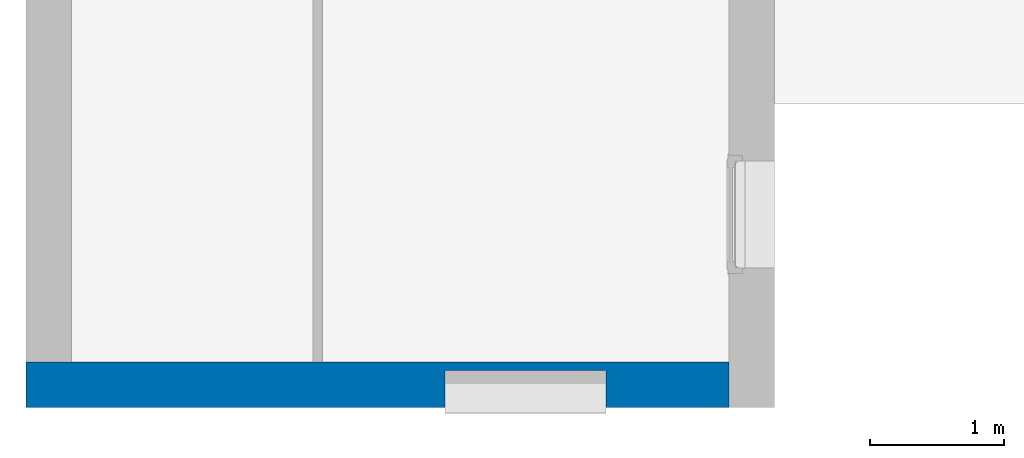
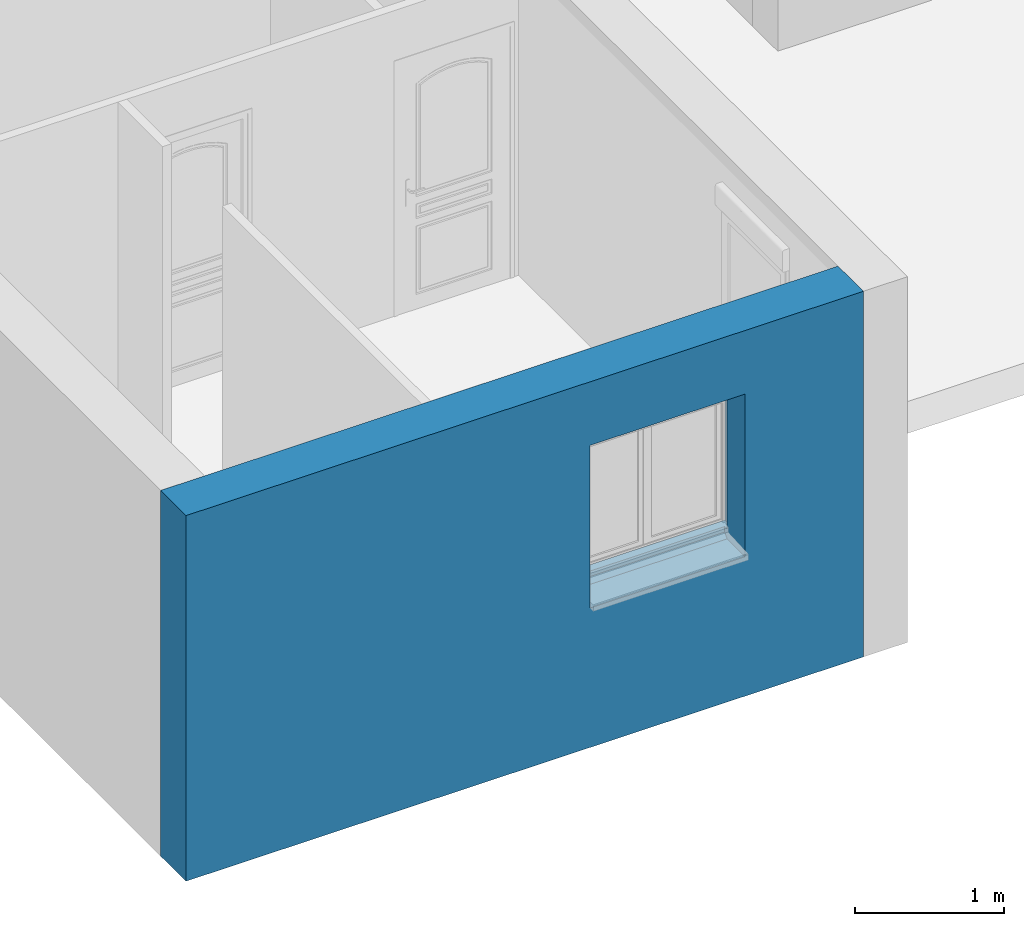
# One storey, part 2 of 23: 1 wall, 1 opening.
"""IFC2X3 building model written with IfcOpenShell, lengths in metres."""

from ifc_helpers import new_model, entity, si_unit, converted_unit, derived_unit, direction, frame, frame_2d, origin, place, context, subcontext, project, spatial, rectangle, extrude, faceted_brep, material, layer, layer_set, layer_usage, type_object, element, save


model = new_model("IFC2X3")

# Units and contexts
model_context = context("Model", 3, precision=1e-05, world=origin(), true_north=direction((6.12303176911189e-17, 1.0)))
body_context = subcontext(model_context, "Body", "Model", "MODEL_VIEW")
ifc_project = project(units=[si_unit("LENGTHUNIT", "METRE"), si_unit("AREAUNIT", "SQUARE_METRE"), si_unit("VOLUMEUNIT", "CUBIC_METRE"), converted_unit("PLANEANGLEUNIT", "DEGREE", entity("IfcRatioMeasure", 0.0174532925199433), si_unit("PLANEANGLEUNIT", "RADIAN"), dimensions=[0, 0, 0, 0, 0, 0, 0]), si_unit("MASSUNIT", "GRAM", prefix="KILO"), derived_unit("MASSDENSITYUNIT", [(si_unit("MASSUNIT", "GRAM", prefix="KILO"), 1), (si_unit("LENGTHUNIT", "METRE"), -3)]), si_unit("TIMEUNIT", "SECOND"), si_unit("FREQUENCYUNIT", "HERTZ"), si_unit("THERMODYNAMICTEMPERATUREUNIT", "DEGREE_CELSIUS"), derived_unit("THERMALTRANSMITTANCEUNIT", [(si_unit("MASSUNIT", "GRAM", prefix="KILO"), 1), (si_unit("THERMODYNAMICTEMPERATUREUNIT", "KELVIN"), -1), (si_unit("TIMEUNIT", "SECOND"), -3)]), derived_unit("VOLUMETRICFLOWRATEUNIT", [(si_unit("LENGTHUNIT", "METRE"), 3), (si_unit("TIMEUNIT", "SECOND"), -1)]), si_unit("ELECTRICCURRENTUNIT", "AMPERE"), si_unit("ELECTRICVOLTAGEUNIT", "VOLT"), si_unit("POWERUNIT", "WATT"), si_unit("FORCEUNIT", "NEWTON", prefix="KILO"), si_unit("ILLUMINANCEUNIT", "LUX"), si_unit("LUMINOUSFLUXUNIT", "LUMEN"), si_unit("LUMINOUSINTENSITYUNIT", "CANDELA"), derived_unit("USERDEFINED", [(si_unit("MASSUNIT", "GRAM", prefix="KILO"), -1), (si_unit("LENGTHUNIT", "METRE"), -2), (si_unit("TIMEUNIT", "SECOND"), 3), (si_unit("LUMINOUSFLUXUNIT", "LUMEN"), 1)]), derived_unit("LINEARVELOCITYUNIT", [(si_unit("LENGTHUNIT", "METRE"), 1), (si_unit("TIMEUNIT", "SECOND"), -1)]), si_unit("PRESSUREUNIT", "PASCAL"), derived_unit("USERDEFINED", [(si_unit("LENGTHUNIT", "METRE"), -2), (si_unit("MASSUNIT", "GRAM", prefix="KILO"), 1), (si_unit("TIMEUNIT", "SECOND"), -2)])], contexts=[model_context])

# Site, building, storey
site_placement = place(None, origin())
site = spatial("IfcSite", under=ifc_project, at=site_placement, Name="Default", CompositionType="ELEMENT")
building_placement = place(site_placement, origin())
building = spatial("IfcBuilding", under=site, at=building_placement, CompositionType="ELEMENT")
storey_placement = place(building_placement, origin())
storey = spatial("IfcBuildingStorey", under=building, at=storey_placement, Name="2 - Rez de Chaussée", CompositionType="ELEMENT", Elevation=-1.94916083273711e-14)

# Wall, opening
ifc_material_1 = material(Name="Maçonnerie - Enduit")
ifc_layer_1 = layer(ifc_material_1, 0.02)
ifc_material_2 = material(Name="Blocs béton manufacturés")
ifc_layer_2 = layer(ifc_material_2, 0.2)
ifc_material_3 = material(Name="TIFE, isolation extérieure")
ifc_layer_3 = layer(ifc_material_3, 0.12)
ifc_layer_set = layer_set([ifc_layer_1, ifc_layer_2, ifc_layer_3], Name="Mur de base:Isolant 10+1 vide 1 Parpaing 20 Enduit 2")
ifc_layer_usage = layer_usage(ifc_layer_set, "AXIS2", "NEGATIVE", 0.17)
wall_type = type_object("IfcWallType", Name="Mur de base:Isolant 10+1 vide 1 Parpaing 20 Enduit 2", PredefinedType="STANDARD", material=ifc_layer_set)
wall_placement = place(storey_placement, frame((-4.69622246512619, -7.28194499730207, -0.32), z_axis=(0.0, 0.0, 1.0), x_axis=(-1.0, 0.0, 0.0)))
wall = element("IfcWallStandardCase", 1, at=wall_placement, inside=storey, type_object=wall_type, material=ifc_layer_usage, Name="Mur de base:Isolant 10+1 vide 1 Parpaing 20 Enduit 2", ObjectType="Mur de base:Isolant 10+1 vide 1 Parpaing 20 Enduit 2", context=body_context, shape_type="SweptSolid", body=[
    extrude(rectangle(XDim=5.24, YDim=0.340000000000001, at=frame_2d((2.62, 2.77555756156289e-17), x_axis=(-1.0, 0.0))), origin(), (0.0, 0.0, 1.0), 2.99000000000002),
])
opening_placement = place(wall_placement, frame((2.16499999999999, 0.49999999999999, 1.14), z_axis=(0.0, 0.0, 1.0), x_axis=(-1.0, 0.0, 0.0)))
element("IfcOpeningElement", 2, at=opening_placement, cuts=wall, Name="Mur de base:Isolant 10+1 vide 1 Parpaing 20 Enduit 2", ObjectType="Opening", context=body_context, shape_type="Brep", body=[
    faceted_brep([(0.0500000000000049, 1.0, 1.33), (1.25, 1.0, 1.33), (1.25, 1.0, 0.0799999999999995), (0.0500000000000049, 1.0, 0.0799999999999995), (0.049999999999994, 0.0, 1.33), (0.049999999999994, 0.0, 0.0799999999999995), (1.24999999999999, 0.0, 0.0799999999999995), (1.24999999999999, 0.0, 1.33), (0.0500000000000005, 0.68300000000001, 1.33), (1.25, 0.682999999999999, 1.33), (1.25, 0.682999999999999, 0.0799999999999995), (1.29, 0.682999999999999, 0.0799999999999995), (1.29, 0.569999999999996, 0.0799999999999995), (1.25, 0.569999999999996, 0.0799999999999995), (1.25, 0.604999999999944, 0.0799999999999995), (0.0499999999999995, 0.604999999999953, 0.0799999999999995), (0.0499999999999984, 0.570000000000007, 0.0799999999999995), (0.00999999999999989, 0.570000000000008, 0.0799999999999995), (0.010000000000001, 0.68300000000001, 0.0799999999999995), (0.0500000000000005, 0.68300000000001, 0.0799999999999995), (0.0100000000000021, 0.68300000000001, 1.37), (1.29, 0.682999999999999, 1.37), (1.29, 0.569999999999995, 1.37), (1.3, 0.569999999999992, 1.37), (1.3, 0.569999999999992, 1.55), (0.0, 0.570000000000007, 1.55), (0.0, 0.570000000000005, 1.37), (0.010000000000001, 0.570000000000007, 1.37), (0.0499999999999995, 0.570000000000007, 1.33), (1.25, 0.569999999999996, 1.33), (1.3, 0.702999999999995, 1.55), (1.3, 0.702999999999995, 1.37), (0.0, 0.703000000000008, 1.55), (0.0, 0.703000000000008, 1.37), (1.25, 0.569999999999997, 0.0), (0.0499999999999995, 0.570000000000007, 0.0), (0.0499999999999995, 0.604999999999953, 0.0349999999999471), (1.25, 0.604999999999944, 0.0349999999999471), (1.25, 0.284999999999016, 0.0799999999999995), (0.0499999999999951, 0.284999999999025, 0.0799999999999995), (0.0499999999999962, 0.284999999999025, 0.0), (1.25, 0.284999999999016, 0.0)], [[[0, 1, 2, 3]], [[4, 5, 6, 7]], [[0, 8, 9, 1]], [[1, 9, 10, 2]], [[2, 10, 11, 12, 13, 14, 15, 16, 17, 18, 19, 3]], [[3, 19, 8, 0]], [[10, 9, 8, 19, 18, 20, 21, 11]], [[11, 21, 22, 12]], [[12, 22, 23, 24, 25, 26, 27, 17, 16, 28, 29, 13]], [[18, 17, 27, 20]], [[30, 24, 23, 31]], [[32, 33, 26, 25]], [[30, 32, 25, 24]], [[23, 22, 21, 20, 27, 26, 33, 31]], [[31, 33, 32, 30]], [[34, 35, 36, 37]], [[37, 36, 15, 14]], [[38, 39, 40, 41]], [[41, 40, 35, 34]], [[4, 28, 16, 15, 36, 35, 40, 39, 5]], [[5, 39, 38, 6]], [[6, 38, 41, 34, 37, 14, 13, 29, 7]], [[7, 29, 28, 4]]]),
])

save(model, "model.ifc")
